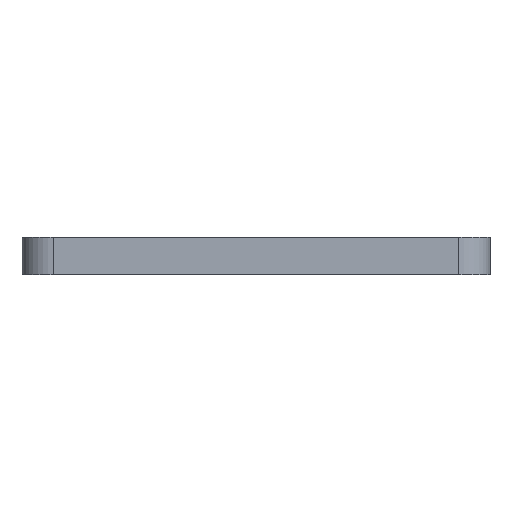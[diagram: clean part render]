
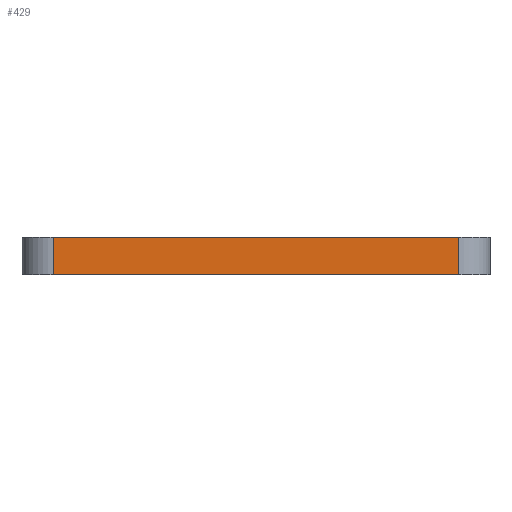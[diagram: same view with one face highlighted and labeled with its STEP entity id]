
A CAD part, left-side view. The second image highlights one B-rep face of the part: STEP entity #429.
In plain terms, the highlighted planar face has unit normal (-1, 0, 0).
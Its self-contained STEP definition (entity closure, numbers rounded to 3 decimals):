
#402=AXIS2_PLACEMENT_3D('Plane Axis2P3D',#399,#400,#401) ;
#94=CARTESIAN_POINT('Line Origine',(0.,-75.,12.)) ;
#98=CARTESIAN_POINT('Vertex',(0.,-10.,12.)) ;
#100=CARTESIAN_POINT('Vertex',(0.,-140.,12.)) ;
#399=CARTESIAN_POINT('Axis2P3D Location',(0.,0.,0.)) ;
#404=CARTESIAN_POINT('Line Origine',(0.,-75.,0.)) ;
#408=CARTESIAN_POINT('Vertex',(0.,-10.,0.)) ;
#410=CARTESIAN_POINT('Vertex',(0.,-140.,0.)) ;
#413=CARTESIAN_POINT('Line Origine',(0.,-140.,6.)) ;
#418=CARTESIAN_POINT('Line Origine',(0.,-10.,6.)) ;
#95=DIRECTION('Vector Direction',(0.,-1.,0.)) ;
#400=DIRECTION('Axis2P3D Direction',(-1.,0.,0.)) ;
#401=DIRECTION('Axis2P3D XDirection',(0.,-1.,0.)) ;
#405=DIRECTION('Vector Direction',(0.,-1.,0.)) ;
#414=DIRECTION('Vector Direction',(0.,0.,1.)) ;
#419=DIRECTION('Vector Direction',(0.,0.,1.)) ;
#96=VECTOR('Line Direction',#95,1.) ;
#406=VECTOR('Line Direction',#405,1.) ;
#415=VECTOR('Line Direction',#414,1.) ;
#420=VECTOR('Line Direction',#419,1.) ;
#424=ORIENTED_EDGE('',*,*,#412,.T.) ;
#425=ORIENTED_EDGE('',*,*,#417,.T.) ;
#426=ORIENTED_EDGE('',*,*,#102,.F.) ;
#427=ORIENTED_EDGE('',*,*,#422,.F.) ;
#429=ADVANCED_FACE('\X2\96F64EF651E04F554F53\X0\',(#428),#403,.T.) ;
#102=EDGE_CURVE('',#99,#101,#97,.T.) ;
#412=EDGE_CURVE('',#409,#411,#407,.T.) ;
#417=EDGE_CURVE('',#411,#101,#416,.T.) ;
#422=EDGE_CURVE('',#409,#99,#421,.T.) ;
#423=EDGE_LOOP('',(#424,#425,#426,#427)) ;
#428=FACE_OUTER_BOUND('',#423,.T.) ;
#97=LINE('Line',#94,#96) ;
#407=LINE('Line',#404,#406) ;
#416=LINE('Line',#413,#415) ;
#421=LINE('Line',#418,#420) ;
#403=PLANE('',#402) ;
#99=VERTEX_POINT('',#98) ;
#101=VERTEX_POINT('',#100) ;
#409=VERTEX_POINT('',#408) ;
#411=VERTEX_POINT('',#410) ;
